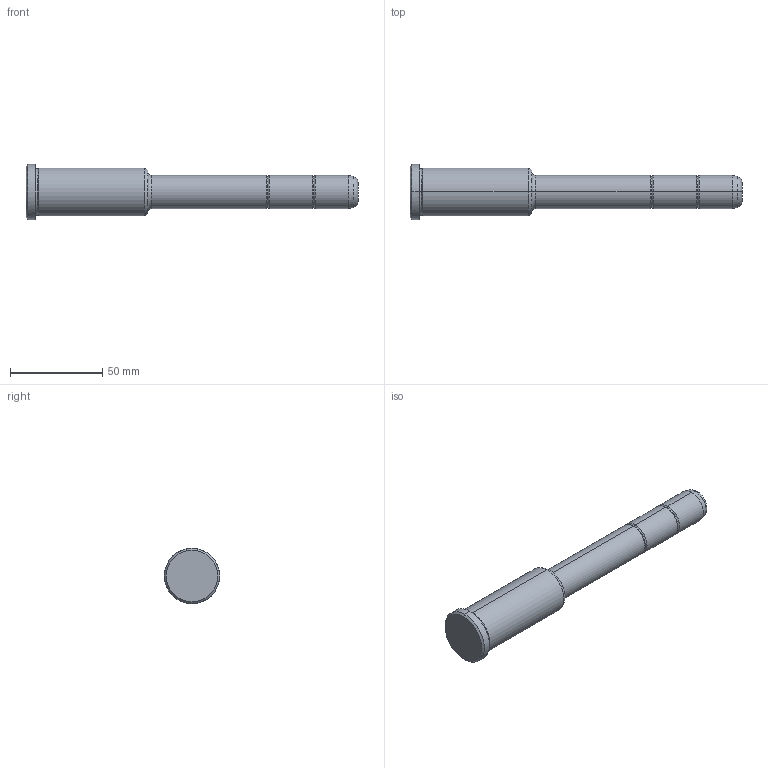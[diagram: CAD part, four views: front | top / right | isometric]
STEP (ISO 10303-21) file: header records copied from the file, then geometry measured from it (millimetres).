
FILE_DESCRIPTION(('CATIA V5 STEP Exchange'),'2;1');
FILE_NAME('C:\Users\Utente\Desktop\IO LAVORO\3D X SITO CF\X SITO\PLASTICA\351\351-18X66X180.stp','2021-08-27T11:19:58+00:00',('none'),('none'),'CATIA Version 5 Release 20 GA (IN-10)','CATIA V5 STEP AP203','none');
FILE_SCHEMA(('CONFIG_CONTROL_DESIGN'));
Length unit declared in the file: millimetre
Products named in the file (1): 351-18X66X180
Bounding box: 180 x 30 x 30 mm (x, y, z)
Volume: 64498.3 mm3; surface area: 13083.7 mm2
Topology: 1 solids, 1 shells, 36 faces, 102 edges, 70 vertices
Faces by surface type: torus 16, cylinder 10, cone 6, plane 4
Entity records: 1292 total; most frequent: CARTESIAN_POINT 321, ORIENTED_EDGE 204, DIRECTION 166, AXIS2_PLACEMENT_3D 115, EDGE_CURVE 102, CIRCLE 78, VERTEX_POINT 70, EDGE_LOOP 38
